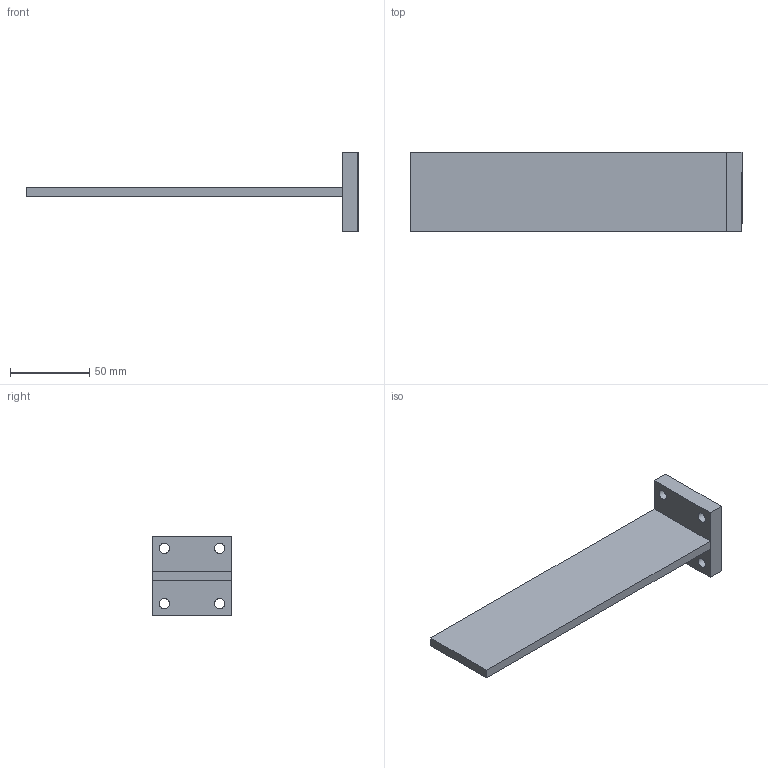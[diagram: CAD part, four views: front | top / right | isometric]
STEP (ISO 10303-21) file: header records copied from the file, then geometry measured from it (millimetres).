
FILE_DESCRIPTION(/* description */ (''),/* implementation_level */ '2;1');
FILE_NAME(/* name */ 'C:\Local Work Area\Progetti\AP\CALIBRI\03 Staffe\03.03-C.stp',/* time_stamp */ '2015-03-31T11:04:40+02:00',/* author */ ('CAD5'),/* organization */ (''),/* preprocessor_version */ 'ST-DEVELOPER v15.2',/* originating_system */ 'Autodesk Inventor 2014',/* authorisation */ '');
FILE_SCHEMA (('AUTOMOTIVE_DESIGN { 1 0 10303 214 3 1 1 }'));
Length unit declared in the file: millimetre
Products named in the file (3): 03.03-C-a; 03.03-C-b; 03.03-C
Bounding box: 210 x 50 x 50 mm (x, y, z)
Volume: 83672.7 mm3; surface area: 30551.3 mm2
Topology: 2 solids, 2 shells, 16 faces, 40 edges, 28 vertices
Faces by surface type: plane 12, cylinder 4
Full cylindrical faces by diameter (mm): 6.5 x4
Entity records: 509 total; most frequent: DIRECTION 82, CARTESIAN_POINT 77, ORIENTED_EDGE 64, EDGE_CURVE 32, AXIS2_PLACEMENT_3D 29, EDGE_LOOP 28, LINE 24, VECTOR 24
